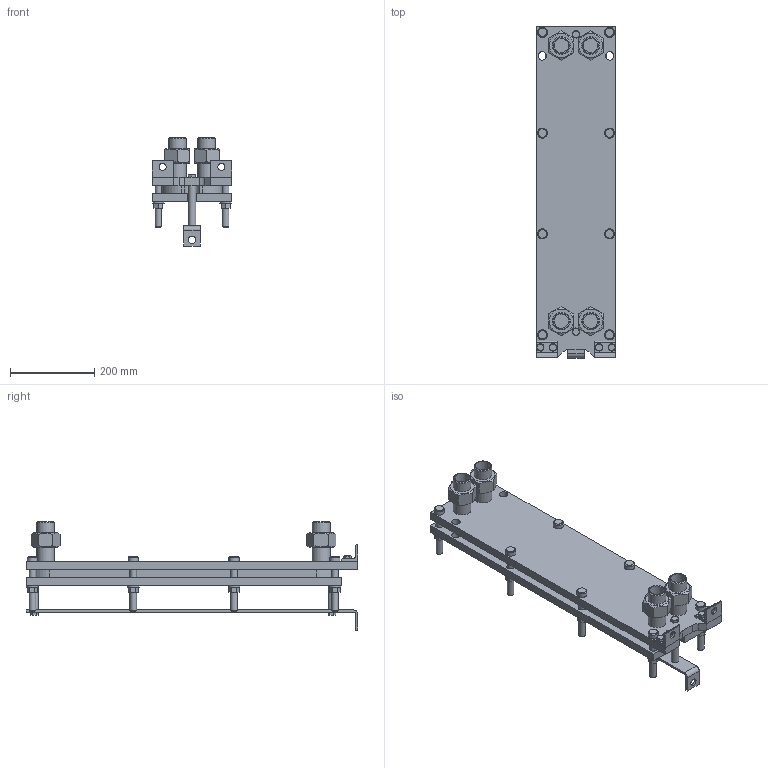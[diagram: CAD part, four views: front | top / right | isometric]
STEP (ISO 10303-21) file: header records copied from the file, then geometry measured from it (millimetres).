
FILE_DESCRIPTION(/* description */ (''),/* implementation_level */ '2;1');
FILE_NAME(/* name */ 'C:\Users\zhuro\Desktop\ENCO\TO\ЭН-008\ЭН-0,5-008-6-1.stp',/* time_stamp */ '2022-06-06T10:45:31+03:00',/* author */ ('zhuro'),/* organization */ (''),/* preprocessor_version */ 'ST-DEVELOPER v18.1',/* originating_system */ 'Autodesk Inventor 2022',/* authorisation */ '');
FILE_SCHEMA (('AUTOMOTIVE_DESIGN { 1 0 10303 214 3 1 1 }'));
Length unit declared in the file: millimetre
Products named in the file (1): ЭН-0,5-008-6-1
Bounding box: 190 x 790 x 257.8 mm (x, y, z)
Volume: 8470807.9 mm3; surface area: 1226394.7 mm2
Topology: 40 solids, 40 shells, 428 faces, 924 edges, 606 vertices
Faces by surface type: plane 273, cylinder 109, cone 40, torus 6
Full cylindrical faces by diameter (mm): 12 x6, 14 x2, 16 x20, 17 x8, 18 x19, 20 x5, 24 x8, 28 x8, 34.3 x8, 42.3 x8
Entity records: 15843 total; most frequent: CARTESIAN_POINT 5991, DIRECTION 1984, ORIENTED_EDGE 1848, EDGE_CURVE 924, AXIS2_PLACEMENT_3D 715, VERTEX_POINT 606, LINE 554, VECTOR 554
